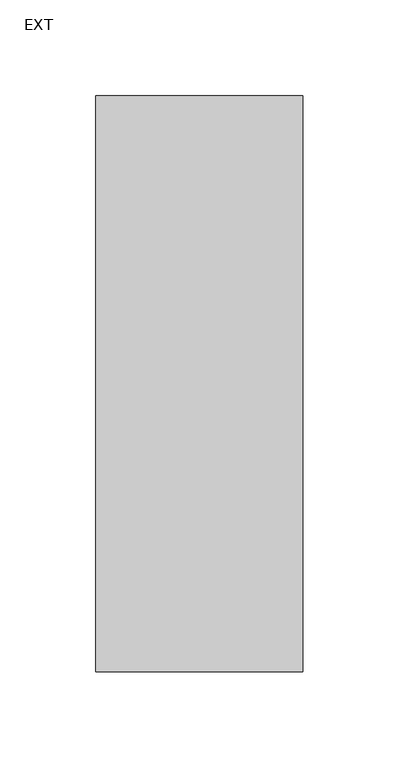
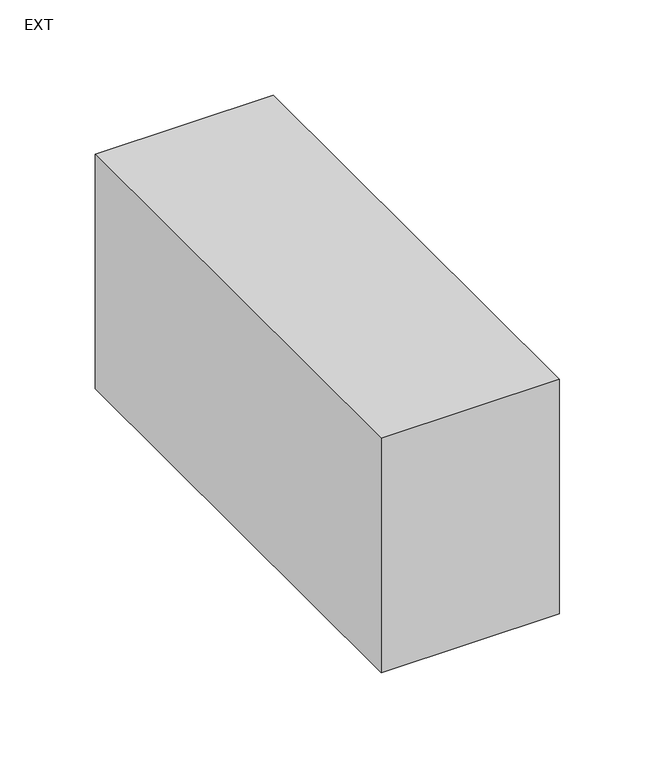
"""IFC4 building model written with IfcOpenShell, lengths in millimetres: duct fitting geometry, M_Toma de derivación rectangular : EXT."""

from ifc_helpers import new_model, si_unit, frame, origin, place, context, project, spatial, polyline, outline, extrude, source, transform, mapped, element, save


def ext_22d5d12d(model_context):
    return source(origin(), model_context, "Body", "SweptSolid", [
        extrude(outline(polyline([(-6.096, 150.0), (101.6, 150.0), (101.6, -150.0), (-6.096, -150.0), (-6.096, 150.0)])), frame((0.0, 0.0, -75.0), z_axis=(0.0, 0.0, 1.0), x_axis=(1.0, 0.0, 0.0)), (0.0, 0.0, 1.0), 150.0),
    ])


if __name__ == "__main__":
    model = new_model("IFC4")
    model_context = context("Model", 3, world=origin())
    ifc_project = project(units=[si_unit("LENGTHUNIT", "METRE", prefix="MILLI")], contexts=[model_context])
    site = spatial("IfcSite", under=ifc_project)
    building = spatial("IfcBuilding", under=site)
    placement = place(None, origin())
    ext_shape = ext_22d5d12d(model_context)
    element("IfcDuctFitting", 1, ObjectType="M_Toma de derivación rectangular : EXT", at=placement, inside=building, context=model_context, shape_type="MappedRepresentation", body=[
        mapped(ext_shape, transform((0.0, 0.0, 0.0), x_axis=(1.0, 0.0, 0.0), y_axis=(0.0, 1.0, 0.0), z_axis=(0.0, 0.0, 1.0))),
    ])
    save(model, "model.ifc")
